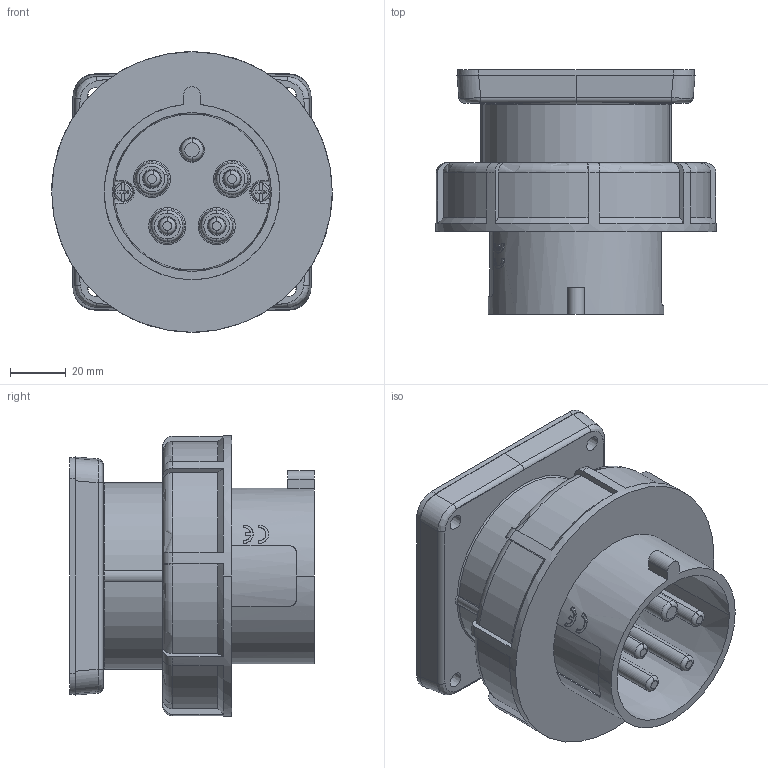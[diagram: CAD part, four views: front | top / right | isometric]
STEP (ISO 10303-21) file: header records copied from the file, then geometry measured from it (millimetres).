
FILE_DESCRIPTION((''),'2;1');
FILE_NAME('1115953_ASM_SW0001','2018-04-04T',('gisse'),('MENNEKES'),'PRO/ENGINEER BY PARAMETRIC TECHNOLOGY CORPORATION, 2015440','PRO/ENGINEER BY PARAMETRIC TECHNOLOGY CORPORATION, 2015440','');
FILE_SCHEMA(('AUTOMOTIVE_DESIGN { 1 0 10303 214 1 1 1 1 }'));
Length unit declared in the file: millimetre
Products named in the file (1): 1115953_ASM_SW0001
Bounding box: 101 x 88 x 101 mm (x, y, z)
Volume: 329675 mm3; surface area: 60217.6 mm2
Topology: 1 solids, 1 shells, 352 faces, 858 edges, 544 vertices
Faces by surface type: plane 130, cylinder 104, torus 54, cone 52, bspline 8, sphere 4
Entity records: 18627 total; most frequent: CARTESIAN_POINT 3464, DIRECTION 1780, ORIENTED_EDGE 1716, PRESENTATION_STYLE_ASSIGNMENT 1183, STYLED_ITEM 859, CURVE_STYLE 858, EDGE_CURVE 858, AXIS2_PLACEMENT_3D 718
